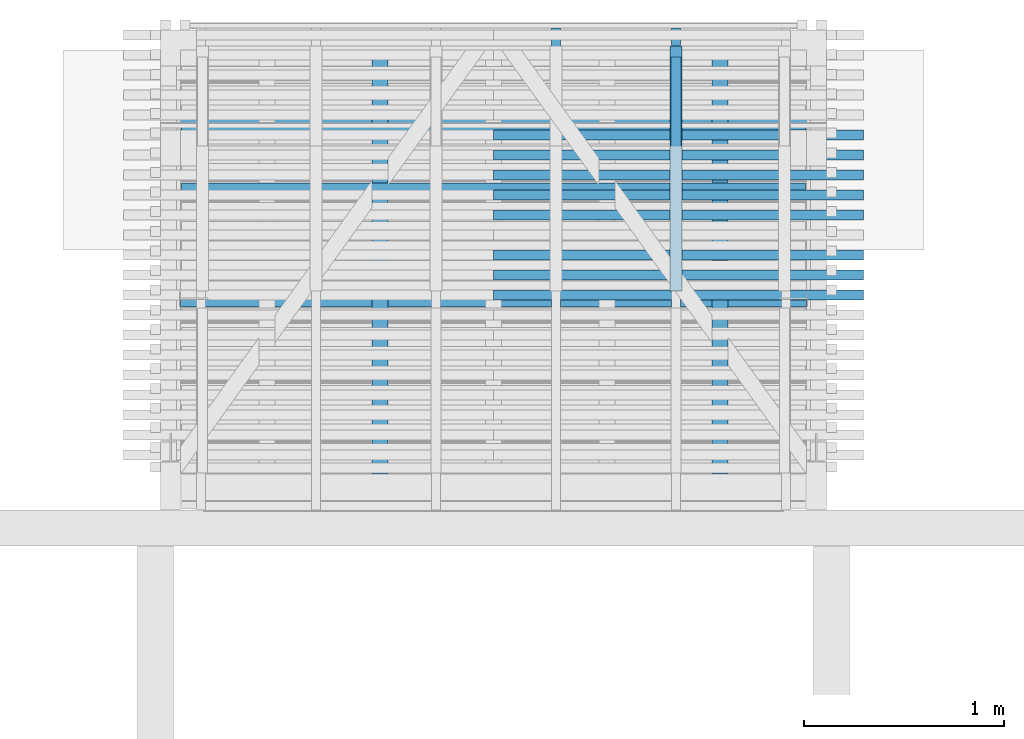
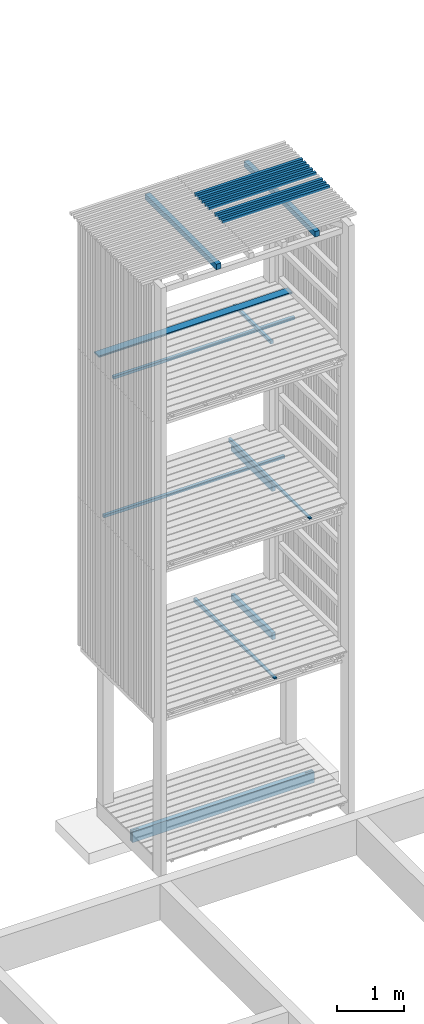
# One storey, part 151 of 182: 19 beams.
"""IFC2X3 building model written with IfcOpenShell, lengths in metres."""

from ifc_helpers import new_model, si_unit, frame, origin, place, context, project, spatial, faceted_brep, element, save


model = new_model("IFC2X3")

# Units and contexts
model_context = context("Model", 3, precision=1e-06, world=origin())
ifc_project = project(units=[si_unit("LENGTHUNIT", "METRE"), si_unit("PLANEANGLEUNIT", "RADIAN")], contexts=[model_context])

# Site, building, storey
site = spatial("IfcSite", under=ifc_project, CompositionType="ELEMENT")
building = spatial("IfcBuilding", under=site, CompositionType="ELEMENT")
storey = spatial("IfcBuildingStorey", under=building, Name="vs", CompositionType="ELEMENT", Elevation=-0.85)

# Beams
placement = place(None, origin())
beam_1_placement = place(placement, frame((36.569999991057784, 11.545077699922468, 10.47999999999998), z_axis=(0.0, 0.0, 1.0), x_axis=(-1.0, 0.0, 0.0)))
element("IfcBeam", 1, at=beam_1_placement, inside=storey, Name="Bardage", context=model_context, shape_type="Brep", body=[
    faceted_brep([(-3e-15, 0.025000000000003, 0.025000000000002), (-3e-15, -0.024999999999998, 0.025000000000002), (1.849999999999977, -0.024999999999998, 0.025000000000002), (1.849999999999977, 0.025000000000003, 0.025000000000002), (1.849999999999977, -0.024999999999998, 0.025000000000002), (-3e-15, -0.024999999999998, 0.025000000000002), (-3e-15, -0.024999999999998, -0.024999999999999), (1.849999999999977, -0.024999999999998, -0.024999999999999), (-3e-15, -0.024999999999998, 0.025000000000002), (-3e-15, 0.025000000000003, 0.025000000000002), (-3e-15, 0.025000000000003, -0.024999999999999), (-3e-15, -0.024999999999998, -0.024999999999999), (-3e-15, 0.025000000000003, -0.024999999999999), (-3e-15, 0.025000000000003, 0.025000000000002), (1.849999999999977, 0.025000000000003, 0.025000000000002), (1.849999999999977, 0.025000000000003, -0.024999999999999), (1.849999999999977, -0.024999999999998, -0.024999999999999), (-3e-15, -0.024999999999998, -0.024999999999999), (-3e-15, 0.025000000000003, -0.024999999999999), (1.849999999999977, 0.025000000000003, -0.024999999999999), (1.849999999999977, -0.024999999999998, 0.025000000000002), (1.849999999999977, -0.024999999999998, -0.024999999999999), (1.849999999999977, 0.025000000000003, -0.024999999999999), (1.849999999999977, 0.025000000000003, 0.025000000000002)], [[[0, 1, 2, 3]], [[4, 5, 6, 7]], [[8, 9, 10, 11]], [[12, 13, 14, 15]], [[16, 17, 18, 19]], [[20, 21, 22, 23]]]),
])
beam_2_placement = place(placement, frame((36.569999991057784, 12.245077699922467, 10.47999999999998), z_axis=(0.0, 0.0, 1.0), x_axis=(-1.0, 0.0, 0.0)))
element("IfcBeam", 2, at=beam_2_placement, inside=storey, Name="Bardage", context=model_context, shape_type="Brep", body=[
    faceted_brep([(-3e-15, 0.024999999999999, 0.025000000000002), (-3e-15, -0.024999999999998, 0.025000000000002), (1.849999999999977, -0.024999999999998, 0.025000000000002), (1.849999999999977, 0.024999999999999, 0.025000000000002), (1.849999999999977, -0.024999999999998, 0.025000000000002), (-3e-15, -0.024999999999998, 0.025000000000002), (-3e-15, -0.024999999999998, -0.024999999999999), (1.849999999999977, -0.024999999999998, -0.024999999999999), (-3e-15, -0.024999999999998, 0.025000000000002), (-3e-15, 0.024999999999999, 0.025000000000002), (-3e-15, 0.024999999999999, -0.024999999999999), (-3e-15, -0.024999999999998, -0.024999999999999), (-3e-15, 0.024999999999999, -0.024999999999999), (-3e-15, 0.024999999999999, 0.025000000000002), (1.849999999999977, 0.024999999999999, 0.025000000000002), (1.849999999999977, 0.024999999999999, -0.024999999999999), (1.849999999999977, -0.024999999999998, -0.024999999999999), (-3e-15, -0.024999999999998, -0.024999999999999), (-3e-15, 0.024999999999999, -0.024999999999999), (1.849999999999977, 0.024999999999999, -0.024999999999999), (1.849999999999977, -0.024999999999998, 0.025000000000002), (1.849999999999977, -0.024999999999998, -0.024999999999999), (1.849999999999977, 0.024999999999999, -0.024999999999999), (1.849999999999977, 0.024999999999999, 0.025000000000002)], [[[0, 1, 2, 3]], [[4, 5, 6, 7]], [[8, 9, 10, 11]], [[12, 13, 14, 15]], [[16, 17, 18, 19]], [[20, 21, 22, 23]]]),
])
beam_3_placement = place(placement, frame((36.569999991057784, 12.145077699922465, 10.47999999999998), z_axis=(0.0, 0.0, 1.0), x_axis=(-1.0, 0.0, 0.0)))
element("IfcBeam", 3, at=beam_3_placement, inside=storey, Name="Bardage", context=model_context, shape_type="Brep", body=[
    faceted_brep([(-3e-15, 0.024999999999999, 0.025000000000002), (-3e-15, -0.025000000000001, 0.025000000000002), (1.849999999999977, -0.025000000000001, 0.025000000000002), (1.849999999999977, 0.024999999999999, 0.025000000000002), (1.849999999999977, -0.025000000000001, 0.025000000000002), (-3e-15, -0.025000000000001, 0.025000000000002), (-3e-15, -0.025000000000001, -0.024999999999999), (1.849999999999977, -0.025000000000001, -0.024999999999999), (-3e-15, -0.025000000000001, 0.025000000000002), (-3e-15, 0.024999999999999, 0.025000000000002), (-3e-15, 0.024999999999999, -0.024999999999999), (-3e-15, -0.025000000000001, -0.024999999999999), (-3e-15, 0.024999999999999, -0.024999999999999), (-3e-15, 0.024999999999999, 0.025000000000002), (1.849999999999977, 0.024999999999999, 0.025000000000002), (1.849999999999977, 0.024999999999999, -0.024999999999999), (1.849999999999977, -0.025000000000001, -0.024999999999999), (-3e-15, -0.025000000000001, -0.024999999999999), (-3e-15, 0.024999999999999, -0.024999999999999), (1.849999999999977, 0.024999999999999, -0.024999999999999), (1.849999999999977, -0.025000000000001, 0.025000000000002), (1.849999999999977, -0.025000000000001, -0.024999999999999), (1.849999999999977, 0.024999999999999, -0.024999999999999), (1.849999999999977, 0.024999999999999, 0.025000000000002)], [[[0, 1, 2, 3]], [[4, 5, 6, 7]], [[8, 9, 10, 11]], [[12, 13, 14, 15]], [[16, 17, 18, 19]], [[20, 21, 22, 23]]]),
])
beam_4_placement = place(placement, frame((35.6329999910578, 12.735077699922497, 7.91739999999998), z_axis=(0.0, 0.0, 1.0), x_axis=(0.0, -1.0, 0.0)))
element("IfcBeam", 4, at=beam_4_placement, inside=storey, Name="Calage", context=model_context, shape_type="Brep", body=[
    faceted_brep([(0.0, -0.025000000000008, -0.025), (0.0, -0.025000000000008, 0.024999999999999), (0.0, 0.024999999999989, 0.024999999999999), (0.0, 0.024999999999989, -0.025), (1.115000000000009, 0.024999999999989, 0.024999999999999), (1.115000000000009, -0.025000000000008, 0.024999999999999), (1.115000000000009, -0.025000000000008, -0.025), (1.115000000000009, 0.024999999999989, -0.025), (0.0, 0.024999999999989, 0.024999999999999), (0.0, -0.025000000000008, 0.024999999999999), (1.115000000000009, -0.025000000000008, 0.024999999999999), (1.115000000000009, 0.024999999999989, 0.024999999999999), (1.115000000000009, -0.025000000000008, 0.024999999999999), (0.0, -0.025000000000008, 0.024999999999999), (0.0, -0.025000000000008, -0.025), (1.115000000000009, -0.025000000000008, -0.025), (1.115000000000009, -0.025000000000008, -0.025), (0.0, -0.025000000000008, -0.025), (0.0, 0.024999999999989, -0.025), (1.115000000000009, 0.024999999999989, -0.025), (1.115000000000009, 0.024999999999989, -0.025), (0.0, 0.024999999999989, -0.025), (0.0, 0.024999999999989, 0.024999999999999), (1.115000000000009, 0.024999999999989, 0.024999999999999)], [[[0, 1, 2, 3]], [[4, 5, 6, 7]], [[8, 9, 10, 11]], [[12, 13, 14, 15]], [[16, 17, 18, 19]], [[20, 21, 22, 23]]]),
])
beam_5_placement = place(placement, frame((35.63299999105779, 11.565077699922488, 2.604249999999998), z_axis=(0.0, 0.0, 1.0), x_axis=(0.0, 1.0, 0.0)))
element("IfcBeam", 5, at=beam_5_placement, inside=storey, Name="Solive", context=model_context, shape_type="Brep", body=[
    faceted_brep([(0.0, -0.029999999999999, -0.06185), (1.225000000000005, -0.029999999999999, -0.06185), (1.225000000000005, -0.029999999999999, 0.037349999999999), (0.0, -0.029999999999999, 0.06185), (0.0, 0.030000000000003, -0.06185), (1.225000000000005, 0.029999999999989, -0.06185), (1.225000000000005, -0.029999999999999, -0.06185), (0.0, -0.029999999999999, -0.06185), (0.0, 0.030000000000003, 0.06185), (0.0, 0.030000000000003, -0.06185), (0.0, -0.029999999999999, -0.06185), (0.0, -0.029999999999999, 0.06185), (1.225000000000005, 0.029999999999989, -0.06185), (0.0, 0.030000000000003, -0.06185), (0.0, 0.030000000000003, 0.06185), (1.225000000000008, 0.029999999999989, 0.03735), (1.225000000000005, -0.029999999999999, 0.037349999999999), (1.225000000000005, -0.029999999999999, -0.06185), (1.225000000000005, 0.029999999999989, -0.06185), (1.225000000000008, 0.029999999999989, 0.03735), (0.0, -0.029999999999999, 0.06185), (1.225000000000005, -0.029999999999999, 0.037349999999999), (1.225000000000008, 0.029999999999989, 0.03735), (0.0, 0.030000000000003, 0.06185)], [[[0, 1, 2, 3]], [[4, 5, 6, 7]], [[8, 9, 10, 11]], [[12, 13, 14, 15]], [[16, 17, 18, 19]], [[20, 21, 22, 23]]]),
])
beam_6_placement = place(placement, frame((36.569999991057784, 12.045077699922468, 10.47999999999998), z_axis=(0.0, 0.0, 1.0), x_axis=(-1.0, 0.0, 0.0)))
element("IfcBeam", 6, at=beam_6_placement, inside=storey, Name="Bardage", context=model_context, shape_type="Brep", body=[
    faceted_brep([(-3e-15, 0.025000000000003, 0.025000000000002), (-3e-15, -0.024999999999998, 0.025000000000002), (1.849999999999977, -0.025000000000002, 0.025000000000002), (1.849999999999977, 0.025000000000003, 0.025000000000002), (1.849999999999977, -0.025000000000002, 0.025000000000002), (-3e-15, -0.024999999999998, 0.025000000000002), (-3e-15, -0.024999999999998, -0.024999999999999), (1.849999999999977, -0.025000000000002, -0.024999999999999), (-3e-15, -0.024999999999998, 0.025000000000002), (-3e-15, 0.025000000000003, 0.025000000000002), (-3e-15, 0.025000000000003, -0.024999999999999), (-3e-15, -0.024999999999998, -0.024999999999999), (-3e-15, 0.025000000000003, -0.024999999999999), (-3e-15, 0.025000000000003, 0.025000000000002), (1.849999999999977, 0.025000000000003, 0.025000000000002), (1.849999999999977, 0.025000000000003, -0.024999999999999), (1.849999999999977, -0.025000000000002, -0.024999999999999), (-3e-15, -0.024999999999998, -0.024999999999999), (-3e-15, 0.025000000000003, -0.024999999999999), (1.849999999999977, 0.025000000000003, -0.024999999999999), (1.849999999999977, -0.025000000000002, 0.025000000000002), (1.849999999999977, -0.025000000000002, -0.024999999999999), (1.849999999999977, 0.025000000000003, -0.024999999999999), (1.849999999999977, 0.025000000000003, 0.025000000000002)], [[[0, 1, 2, 3]], [[4, 5, 6, 7]], [[8, 9, 10, 11]], [[12, 13, 14, 15]], [[16, 17, 18, 19]], [[20, 21, 22, 23]]]),
])
beam_7_placement = place(placement, frame((35.63299999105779, 10.470077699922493, 5.384400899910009), z_axis=(0.0, 0.0, 1.0), x_axis=(0.0, 1.0, 0.0)))
element("IfcBeam", 7, at=beam_7_placement, inside=storey, Name="Calage", context=model_context, shape_type="Brep", body=[
    faceted_brep([(2.410000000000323, -0.022500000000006, -0.035599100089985), (0.0, -0.022500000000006, 0.012600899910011), (0.0, 0.022499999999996, 0.012600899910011), (2.410000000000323, 0.022499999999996, -0.035599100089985), (0.0, 0.022499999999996, 0.035599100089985), (0.0, 0.022499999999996, 0.012600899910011), (0.0, -0.022500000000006, 0.012600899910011), (0.0, -0.022500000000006, 0.035599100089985), (2.410000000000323, 0.022499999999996, -0.035599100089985), (0.0, 0.022499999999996, 0.012600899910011), (0.0, 0.022499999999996, 0.035599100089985), (2.410000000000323, 0.022499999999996, 0.035599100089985), (2.410000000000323, -0.022500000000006, 0.035599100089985), (0.0, -0.022500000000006, 0.035599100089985), (0.0, -0.022500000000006, 0.012600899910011), (2.410000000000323, -0.022500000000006, -0.035599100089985), (2.410000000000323, 0.022499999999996, 0.035599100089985), (0.0, 0.022499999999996, 0.035599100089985), (0.0, -0.022500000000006, 0.035599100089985), (2.410000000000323, -0.022500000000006, 0.035599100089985), (2.410000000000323, 0.022499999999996, -0.035599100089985), (2.410000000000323, 0.022499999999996, 0.035599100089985), (2.410000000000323, -0.022500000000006, 0.035599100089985), (2.410000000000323, -0.022500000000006, -0.035599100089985)], [[[0, 1, 2, 3]], [[4, 5, 6, 7]], [[8, 9, 10, 11]], [[12, 13, 14, 15]], [[16, 17, 18, 19]], [[20, 21, 22, 23]]]),
])
beam_8_placement = place(placement, frame((36.569999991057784, 11.745077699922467, 10.47999999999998), z_axis=(0.0, 0.0, 1.0), x_axis=(-1.0, 0.0, 0.0)))
element("IfcBeam", 8, at=beam_8_placement, inside=storey, Name="Bardage", context=model_context, shape_type="Brep", body=[
    faceted_brep([(-3e-15, 0.024999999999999, 0.025000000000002), (-3e-15, -0.024999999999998, 0.025000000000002), (1.849999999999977, -0.024999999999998, 0.025000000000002), (1.849999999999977, 0.024999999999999, 0.025000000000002), (1.849999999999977, -0.024999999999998, 0.025000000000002), (-3e-15, -0.024999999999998, 0.025000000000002), (-3e-15, -0.024999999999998, -0.024999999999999), (1.849999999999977, -0.024999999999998, -0.024999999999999), (-3e-15, -0.024999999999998, 0.025000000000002), (-3e-15, 0.024999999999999, 0.025000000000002), (-3e-15, 0.024999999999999, -0.024999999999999), (-3e-15, -0.024999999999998, -0.024999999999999), (-3e-15, 0.024999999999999, -0.024999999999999), (-3e-15, 0.024999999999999, 0.025000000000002), (1.849999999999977, 0.024999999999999, 0.025000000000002), (1.849999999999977, 0.024999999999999, -0.024999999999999), (1.849999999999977, -0.024999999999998, -0.024999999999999), (-3e-15, -0.024999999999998, -0.024999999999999), (-3e-15, 0.024999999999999, -0.024999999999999), (1.849999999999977, 0.024999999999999, -0.024999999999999), (1.849999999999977, -0.024999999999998, 0.025000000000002), (1.849999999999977, -0.024999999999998, -0.024999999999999), (1.849999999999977, 0.024999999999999, -0.024999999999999), (1.849999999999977, 0.024999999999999, 0.025000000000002)], [[[0, 1, 2, 3]], [[4, 5, 6, 7]], [[8, 9, 10, 11]], [[12, 13, 14, 15]], [[16, 17, 18, 19]], [[20, 21, 22, 23]]]),
])
beam_9_placement = place(placement, frame((35.63299999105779, 11.565077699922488, 5.304249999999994), z_axis=(0.0, 0.0, 1.0), x_axis=(0.0, 1.0, 0.0)))
element("IfcBeam", 9, at=beam_9_placement, inside=storey, Name="Solive", context=model_context, shape_type="Brep", body=[
    faceted_brep([(0.0, -0.029999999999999, -0.061849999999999), (1.225000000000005, -0.029999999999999, -0.061849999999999), (1.225000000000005, -0.029999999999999, 0.03735), (0.0, -0.029999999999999, 0.06185), (0.0, 0.030000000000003, -0.061849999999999), (1.225000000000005, 0.029999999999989, -0.061849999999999), (1.225000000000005, -0.029999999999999, -0.061849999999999), (0.0, -0.029999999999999, -0.061849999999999), (0.0, 0.030000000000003, 0.061850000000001), (0.0, 0.030000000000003, -0.061849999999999), (0.0, -0.029999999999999, -0.061849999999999), (0.0, -0.029999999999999, 0.06185), (1.225000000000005, 0.029999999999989, -0.061849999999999), (0.0, 0.030000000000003, -0.061849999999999), (0.0, 0.030000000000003, 0.061850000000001), (1.225000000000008, 0.029999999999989, 0.03735), (1.225000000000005, -0.029999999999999, 0.03735), (1.225000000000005, -0.029999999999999, -0.061849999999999), (1.225000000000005, 0.029999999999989, -0.061849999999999), (1.225000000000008, 0.029999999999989, 0.03735), (0.0, -0.029999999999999, 0.06185), (1.225000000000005, -0.029999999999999, 0.03735), (1.225000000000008, 0.029999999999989, 0.03735), (0.0, 0.030000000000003, 0.061850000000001)], [[[0, 1, 2, 3]], [[4, 5, 6, 7]], [[8, 9, 10, 11]], [[12, 13, 14, 15]], [[16, 17, 18, 19]], [[20, 21, 22, 23]]]),
])
beam_10_placement = place(placement, frame((36.569999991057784, 11.945077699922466, 10.47999999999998), z_axis=(0.0, 0.0, 1.0), x_axis=(-1.0, 0.0, 0.0)))
element("IfcBeam", 10, at=beam_10_placement, inside=storey, Name="Bardage", context=model_context, shape_type="Brep", body=[
    faceted_brep([(-3e-15, 0.024999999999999, 0.025000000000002), (-3e-15, -0.025000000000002, 0.025000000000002), (1.849999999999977, -0.025000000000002, 0.025000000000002), (1.849999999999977, 0.024999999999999, 0.025000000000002), (1.849999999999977, -0.025000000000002, 0.025000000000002), (-3e-15, -0.025000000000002, 0.025000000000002), (-3e-15, -0.025000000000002, -0.024999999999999), (1.849999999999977, -0.025000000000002, -0.024999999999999), (-3e-15, -0.025000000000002, 0.025000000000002), (-3e-15, 0.024999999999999, 0.025000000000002), (-3e-15, 0.024999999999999, -0.024999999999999), (-3e-15, -0.025000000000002, -0.024999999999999), (-3e-15, 0.024999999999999, -0.024999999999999), (-3e-15, 0.024999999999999, 0.025000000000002), (1.849999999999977, 0.024999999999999, 0.025000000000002), (1.849999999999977, 0.024999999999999, -0.024999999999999), (1.849999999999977, -0.025000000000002, -0.024999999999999), (-3e-15, -0.025000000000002, -0.024999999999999), (-3e-15, 0.024999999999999, -0.024999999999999), (1.849999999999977, 0.024999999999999, -0.024999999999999), (1.849999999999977, -0.025000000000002, 0.025000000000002), (1.849999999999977, -0.025000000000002, -0.024999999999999), (1.849999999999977, 0.024999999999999, -0.024999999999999), (1.849999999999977, 0.024999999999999, 0.025000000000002)], [[[0, 1, 2, 3]], [[4, 5, 6, 7]], [[8, 9, 10, 11]], [[12, 13, 14, 15]], [[16, 17, 18, 19]], [[20, 21, 22, 23]]]),
])
beam_11_placement = place(placement, frame((36.569999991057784, 11.645077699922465, 10.47999999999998), z_axis=(0.0, 0.0, 1.0), x_axis=(-1.0, 0.0, 0.0)))
element("IfcBeam", 11, at=beam_11_placement, inside=storey, Name="Bardage", context=model_context, shape_type="Brep", body=[
    faceted_brep([(-3e-15, 0.024999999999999, 0.025000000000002), (-3e-15, -0.025000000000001, 0.025000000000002), (1.849999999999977, -0.025000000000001, 0.025000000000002), (1.849999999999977, 0.024999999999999, 0.025000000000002), (1.849999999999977, -0.025000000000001, 0.025000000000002), (-3e-15, -0.025000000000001, 0.025000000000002), (-3e-15, -0.025000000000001, -0.024999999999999), (1.849999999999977, -0.025000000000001, -0.024999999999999), (-3e-15, -0.025000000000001, 0.025000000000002), (-3e-15, 0.024999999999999, 0.025000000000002), (-3e-15, 0.024999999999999, -0.024999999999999), (-3e-15, -0.025000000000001, -0.024999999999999), (-3e-15, 0.024999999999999, -0.024999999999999), (-3e-15, 0.024999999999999, 0.025000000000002), (1.849999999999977, 0.024999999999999, 0.025000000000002), (1.849999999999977, 0.024999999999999, -0.024999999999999), (1.849999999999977, -0.025000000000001, -0.024999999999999), (-3e-15, -0.025000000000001, -0.024999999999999), (-3e-15, 0.024999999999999, -0.024999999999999), (1.849999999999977, 0.024999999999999, -0.024999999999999), (1.849999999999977, -0.025000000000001, 0.025000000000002), (1.849999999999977, -0.025000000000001, -0.024999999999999), (1.849999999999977, 0.024999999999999, -0.024999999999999), (1.849999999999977, 0.024999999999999, 0.025000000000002)], [[[0, 1, 2, 3]], [[4, 5, 6, 7]], [[8, 9, 10, 11]], [[12, 13, 14, 15]], [[16, 17, 18, 19]], [[20, 21, 22, 23]]]),
])
beam_12_placement = place(placement, frame((35.85333332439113, 10.650077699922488, 10.404999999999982), z_axis=(0.0, 0.0, 1.0), x_axis=(0.0, 1.0, 0.0)))
element("IfcBeam", 12, at=beam_12_placement, inside=storey, Name="Support bardage", context=model_context, shape_type="Brep", body=[
    faceted_brep([(2.120000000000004, -0.040000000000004, 0.050000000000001), (2.120000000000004, 0.039999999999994, 0.050000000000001), (3e-15, 0.039999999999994, 0.050000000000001), (3e-15, -0.040000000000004, 0.050000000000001), (3e-15, 0.039999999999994, 0.050000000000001), (2.120000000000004, 0.039999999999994, 0.050000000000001), (2.120000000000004, 0.039999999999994, -0.050000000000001), (3e-15, 0.039999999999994, -0.050000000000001), (2.120000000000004, 0.039999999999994, 0.050000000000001), (2.120000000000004, -0.040000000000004, 0.050000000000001), (2.120000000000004, -0.040000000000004, -0.050000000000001), (2.120000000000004, 0.039999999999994, -0.050000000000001), (2.120000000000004, -0.040000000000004, -0.050000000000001), (2.120000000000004, -0.040000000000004, 0.050000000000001), (3e-15, -0.040000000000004, 0.050000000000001), (3e-15, -0.040000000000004, -0.050000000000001), (3e-15, 0.039999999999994, -0.050000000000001), (2.120000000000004, 0.039999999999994, -0.050000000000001), (2.120000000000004, -0.040000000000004, -0.050000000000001), (3e-15, -0.040000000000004, -0.050000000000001), (3e-15, 0.039999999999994, 0.050000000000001), (3e-15, 0.039999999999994, -0.050000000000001), (3e-15, -0.040000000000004, -0.050000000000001), (3e-15, -0.040000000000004, 0.050000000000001)], [[[0, 1, 2, 3]], [[4, 5, 6, 7]], [[8, 9, 10, 11]], [[12, 13, 14, 15]], [[16, 17, 18, 19]], [[20, 21, 22, 23]]]),
])
beam_13_placement = place(placement, frame((36.569999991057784, 12.345077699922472, 10.47999999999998), z_axis=(0.0, 0.0, 1.0), x_axis=(-1.0, 0.0, 0.0)))
element("IfcBeam", 13, at=beam_13_placement, inside=storey, Name="Bardage", context=model_context, shape_type="Brep", body=[
    faceted_brep([(-3e-15, 0.025000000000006, 0.025000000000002), (-3e-15, -0.024999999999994, 0.025000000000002), (1.849999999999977, -0.024999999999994, 0.025000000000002), (1.849999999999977, 0.025000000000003, 0.025000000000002), (1.849999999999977, -0.024999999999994, 0.025000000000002), (-3e-15, -0.024999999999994, 0.025000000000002), (-3e-15, -0.024999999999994, -0.024999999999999), (1.849999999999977, -0.024999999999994, -0.024999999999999), (-3e-15, -0.024999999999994, 0.025000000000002), (-3e-15, 0.025000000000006, 0.025000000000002), (-3e-15, 0.025000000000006, -0.024999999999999), (-3e-15, -0.024999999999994, -0.024999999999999), (-3e-15, 0.025000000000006, -0.024999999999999), (-3e-15, 0.025000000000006, 0.025000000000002), (1.849999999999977, 0.025000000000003, 0.025000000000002), (1.849999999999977, 0.025000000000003, -0.024999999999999), (1.849999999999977, -0.024999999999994, -0.024999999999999), (-3e-15, -0.024999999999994, -0.024999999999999), (-3e-15, 0.025000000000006, -0.024999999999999), (1.849999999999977, 0.025000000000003, -0.024999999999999), (1.849999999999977, -0.024999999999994, 0.025000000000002), (1.849999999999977, -0.024999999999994, -0.024999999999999), (1.849999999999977, 0.025000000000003, -0.024999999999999), (1.849999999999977, 0.025000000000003, 0.025000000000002)], [[[0, 1, 2, 3]], [[4, 5, 6, 7]], [[8, 9, 10, 11]], [[12, 13, 14, 15]], [[16, 17, 18, 19]], [[20, 21, 22, 23]]]),
])
beam_14_placement = place(placement, frame((36.28499999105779, 11.525077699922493, -0.143899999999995), z_axis=(0.0, 0.0, 1.0), x_axis=(-1.0, -2e-15, 0.0)))
element("IfcBeam", 14, at=beam_14_placement, inside=storey, Name="Sommier", context=model_context, shape_type="Brep", body=[
    faceted_brep([(0.137000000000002, -0.003999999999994, 0.1), (0.137000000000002, -0.003999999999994, -0.1), (1e-15, -0.003999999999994, -0.1), (1e-15, -0.003999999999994, 0.1), (0.137000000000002, 0.004000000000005, -0.1), (0.137000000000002, -0.003999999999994, -0.1), (0.137000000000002, -0.003999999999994, 0.1), (0.137000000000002, 0.004000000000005, 0.1), (0.137000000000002, 0.004000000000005, -0.1), (0.137000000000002, 0.004000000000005, 0.1), (1e-15, 0.004000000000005, 0.1), (1e-15, 0.004000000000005, -0.1), (1e-15, -0.003999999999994, 0.1), (1e-15, -0.003999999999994, -0.1), (1e-15, -0.039999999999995, -0.1), (1e-15, -0.039999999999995, 0.1), (1e-15, 0.040000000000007, 0.1), (1e-15, 0.040000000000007, -0.1), (1e-15, 0.004000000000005, -0.1), (1e-15, 0.004000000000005, 0.1), (3.129999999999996, 0.004000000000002, 0.1), (2.992999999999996, 0.004000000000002, 0.1), (2.992999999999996, 0.004000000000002, -0.1), (3.129999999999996, 0.004000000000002, -0.1), (2.992999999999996, -0.004000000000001, 0.1), (2.992999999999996, -0.004000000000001, -0.1), (2.992999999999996, 0.004000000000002, -0.1), (2.992999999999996, 0.004000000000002, 0.1), (3.129999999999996, -0.004000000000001, -0.1), (2.992999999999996, -0.004000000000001, -0.1), (2.992999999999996, -0.004000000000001, 0.1), (3.129999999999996, -0.004000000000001, 0.1), (3.129999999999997, 0.04, 0.1), (3.129999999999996, 0.004000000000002, 0.1), (3.129999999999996, 0.004000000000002, -0.1), (3.129999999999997, 0.04, -0.1), (3.129999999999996, -0.040000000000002, 0.1), (3.129999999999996, -0.040000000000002, -0.1), (3.129999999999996, -0.004000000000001, -0.1), (3.129999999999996, -0.004000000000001, 0.1), (1e-15, -0.039999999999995, -0.1), (1e-15, -0.003999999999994, -0.1), (0.137000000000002, -0.003999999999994, -0.1), (0.137000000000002, 0.004000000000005, -0.1), (1e-15, 0.004000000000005, -0.1), (1e-15, 0.040000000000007, -0.1), (3.129999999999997, 0.04, -0.1), (3.129999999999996, 0.004000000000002, -0.1), (2.992999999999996, 0.004000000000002, -0.1), (2.992999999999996, -0.004000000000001, -0.1), (3.129999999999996, -0.004000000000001, -0.1), (3.129999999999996, -0.040000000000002, -0.1), (2.992999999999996, 0.004000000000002, 0.1), (3.129999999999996, 0.004000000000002, 0.1), (3.129999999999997, 0.04, 0.1), (1e-15, 0.040000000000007, 0.1), (1e-15, 0.004000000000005, 0.1), (0.137000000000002, 0.004000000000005, 0.1), (0.137000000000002, -0.003999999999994, 0.1), (1e-15, -0.003999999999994, 0.1), (1e-15, -0.039999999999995, 0.1), (3.129999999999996, -0.040000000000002, 0.1), (3.129999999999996, -0.004000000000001, 0.1), (2.992999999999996, -0.004000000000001, 0.1), (1e-15, 0.040000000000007, 0.1), (3.129999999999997, 0.04, 0.1), (3.129999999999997, 0.04, -0.1), (1e-15, 0.040000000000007, -0.1), (1e-15, -0.039999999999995, -0.1), (3.129999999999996, -0.040000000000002, -0.1), (3.129999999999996, -0.040000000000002, 0.1), (1e-15, -0.039999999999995, 0.1)], [[[0, 1, 2, 3]], [[4, 5, 6, 7]], [[8, 9, 10, 11]], [[12, 13, 14, 15]], [[16, 17, 18, 19]], [[20, 21, 22, 23]], [[24, 25, 26, 27]], [[28, 29, 30, 31]], [[32, 33, 34, 35]], [[36, 37, 38, 39]], [[40, 41, 42, 43, 44, 45, 46, 47, 48, 49, 50, 51]], [[52, 53, 54, 55, 56, 57, 58, 59, 60, 61, 62, 63]], [[64, 65, 66, 67]], [[68, 69, 70, 71]]]),
])
beam_15_placement = place(placement, frame((35.03299999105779, 10.470077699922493, 2.684400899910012), z_axis=(0.0, 0.0, 1.0), x_axis=(0.0, 1.0, 0.0)))
element("IfcBeam", 15, at=beam_15_placement, inside=storey, Name="Calage", context=model_context, shape_type="Brep", body=[
    faceted_brep([(2.410000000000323, -0.022499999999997, -0.035599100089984), (0.0, -0.022499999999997, 0.012600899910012), (0.0, 0.022500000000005, 0.012600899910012), (2.410000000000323, 0.02249999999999, -0.035599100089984), (0.0, 0.022500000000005, 0.035599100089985), (0.0, 0.022500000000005, 0.012600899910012), (0.0, -0.022499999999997, 0.012600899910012), (0.0, -0.022499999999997, 0.035599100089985), (2.410000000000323, 0.02249999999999, -0.035599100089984), (0.0, 0.022500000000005, 0.012600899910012), (0.0, 0.022500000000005, 0.035599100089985), (2.410000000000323, 0.022500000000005, 0.035599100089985), (2.410000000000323, -0.022499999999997, 0.035599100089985), (0.0, -0.022499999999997, 0.035599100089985), (0.0, -0.022499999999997, 0.012600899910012), (2.410000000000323, -0.022499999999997, -0.035599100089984), (2.410000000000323, 0.022500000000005, 0.035599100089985), (0.0, 0.022500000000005, 0.035599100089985), (0.0, -0.022499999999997, 0.035599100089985), (2.410000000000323, -0.022499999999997, 0.035599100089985), (2.410000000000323, 0.02249999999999, -0.035599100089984), (2.410000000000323, 0.022500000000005, 0.035599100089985), (2.410000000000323, -0.022499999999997, 0.035599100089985), (2.410000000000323, -0.022499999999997, -0.035599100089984)], [[[0, 1, 2, 3]], [[4, 5, 6, 7]], [[8, 9, 10, 11]], [[12, 13, 14, 15]], [[16, 17, 18, 19]], [[20, 21, 22, 23]]]),
])
beam_16_placement = place(placement, frame((36.384999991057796, 12.384577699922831, 8.13349999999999), z_axis=(0.0, 0.0, 1.0), x_axis=(-1.0, -1e-14, 0.0)))
element("IfcBeam", 16, at=beam_16_placement, inside=storey, Name="Caillebotis", context=model_context, shape_type="Brep", body=[
    faceted_brep([(3.329999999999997, -0.072500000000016, -0.013500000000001), (3.329999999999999, 0.072499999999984, -0.013500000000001), (3.329999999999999, 0.072499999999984, 0.008499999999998), (3.329999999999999, 0.067499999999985, 0.013499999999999), (3.329999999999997, -0.067500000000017, 0.013499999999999), (3.329999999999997, -0.072500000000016, 0.0085), (-1e-15, -0.072499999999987, 0.0085), (-1e-15, -0.067499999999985, 0.013499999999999), (1e-15, 0.067500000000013, 0.013499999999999), (1e-15, 0.072500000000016, 0.008499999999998), (1e-15, 0.072500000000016, -0.013500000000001), (-1e-15, -0.072499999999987, -0.013500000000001), (3.329999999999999, 0.072499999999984, 0.008499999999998), (3.329999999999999, 0.072499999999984, -0.013500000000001), (1e-15, 0.072500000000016, -0.013500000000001), (1e-15, 0.072500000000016, 0.008499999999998), (3.329999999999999, 0.067499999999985, 0.013499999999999), (3.329999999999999, 0.072499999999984, 0.008499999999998), (1e-15, 0.072500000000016, 0.008499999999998), (1e-15, 0.067500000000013, 0.013499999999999), (3.329999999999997, -0.067500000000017, 0.013499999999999), (3.329999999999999, 0.067499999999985, 0.013499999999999), (1e-15, 0.067500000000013, 0.013499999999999), (-1e-15, -0.067499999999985, 0.013499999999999), (3.329999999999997, -0.072500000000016, 0.0085), (3.329999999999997, -0.067500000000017, 0.013499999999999), (-1e-15, -0.067499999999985, 0.013499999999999), (-1e-15, -0.072499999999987, 0.0085), (3.329999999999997, -0.072500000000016, -0.013500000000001), (3.329999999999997, -0.072500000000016, 0.0085), (-1e-15, -0.072499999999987, 0.0085), (-1e-15, -0.072499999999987, -0.013500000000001), (1e-15, 0.072500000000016, -0.013500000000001), (3.329999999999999, 0.072499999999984, -0.013500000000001), (3.329999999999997, -0.072500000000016, -0.013500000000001), (-1e-15, -0.072499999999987, -0.013500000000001)], [[[0, 1, 2, 3, 4, 5]], [[6, 7, 8, 9, 10, 11]], [[12, 13, 14, 15]], [[16, 17, 18, 19]], [[20, 21, 22, 23]], [[24, 25, 26, 27]], [[28, 29, 30, 31]], [[32, 33, 34, 35]]]),
])
beam_17_placement = place(placement, frame((36.27999999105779, 12.080494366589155, 7.86739999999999), z_axis=(0.0, 0.0, 1.0), x_axis=(-1.0, 0.0, 0.0)))
element("IfcBeam", 17, at=beam_17_placement, inside=storey, Name="Bardage", context=model_context, shape_type="Brep", body=[
    faceted_brep([(3.120000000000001, 0.024999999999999, -0.024999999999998), (3.120000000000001, 0.024999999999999, 0.025000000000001), (3.120000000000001, -0.024999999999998, 0.025000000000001), (3.120000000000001, -0.024999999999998, -0.024999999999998), (-3e-15, -0.025000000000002, -0.024999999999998), (-3e-15, -0.025000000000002, 0.025000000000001), (-3e-15, 0.024999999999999, 0.025000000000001), (-3e-15, 0.024999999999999, -0.024999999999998), (-3e-15, 0.024999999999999, -0.024999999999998), (-3e-15, 0.024999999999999, 0.025000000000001), (3.120000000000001, 0.024999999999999, 0.025000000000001), (3.120000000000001, 0.024999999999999, -0.024999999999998), (-3e-15, 0.024999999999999, 0.025000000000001), (-3e-15, -0.025000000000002, 0.025000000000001), (3.120000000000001, -0.024999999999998, 0.025000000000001), (3.120000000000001, 0.024999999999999, 0.025000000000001), (-3e-15, -0.025000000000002, 0.025000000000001), (-3e-15, -0.025000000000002, -0.024999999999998), (3.120000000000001, -0.024999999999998, -0.024999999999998), (3.120000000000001, -0.024999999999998, 0.025000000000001), (-3e-15, -0.025000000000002, -0.024999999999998), (-3e-15, 0.024999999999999, -0.024999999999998), (3.120000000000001, 0.024999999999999, -0.024999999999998), (3.120000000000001, -0.024999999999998, -0.024999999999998)], [[[0, 1, 2, 3]], [[4, 5, 6, 7]], [[8, 9, 10, 11]], [[12, 13, 14, 15]], [[16, 17, 18, 19]], [[20, 21, 22, 23]]]),
])
beam_18_placement = place(placement, frame((36.27999999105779, 12.371744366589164, 5.167399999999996), z_axis=(0.0, 0.0, 1.0), x_axis=(-1.0, 0.0, 0.0)))
element("IfcBeam", 18, at=beam_18_placement, inside=storey, Name="Bardage", context=model_context, shape_type="Brep", body=[
    faceted_brep([(3.120000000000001, 0.025000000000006, 0.024999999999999), (3.120000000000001, -0.024999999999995, 0.024999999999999), (3.120000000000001, -0.024999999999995, -0.025), (3.120000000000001, 0.025000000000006, -0.025), (-3e-15, -0.024999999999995, 0.024999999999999), (-3e-15, 0.025000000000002, 0.024999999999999), (-3e-15, 0.025000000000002, -0.025), (-3e-15, -0.024999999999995, -0.025), (-3e-15, -0.024999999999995, -0.025), (-3e-15, 0.025000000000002, -0.025), (3.120000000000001, 0.025000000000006, -0.025), (3.120000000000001, -0.024999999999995, -0.025), (3.120000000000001, -0.024999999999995, -0.025), (3.120000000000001, -0.024999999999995, 0.024999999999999), (-3e-15, -0.024999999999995, 0.024999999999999), (-3e-15, -0.024999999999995, -0.025), (3.120000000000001, 0.025000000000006, 0.024999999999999), (3.120000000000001, 0.025000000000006, -0.025), (-3e-15, 0.025000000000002, -0.025), (-3e-15, 0.025000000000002, 0.024999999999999), (3.120000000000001, -0.024999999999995, 0.024999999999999), (3.120000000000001, 0.025000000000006, 0.024999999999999), (-3e-15, 0.025000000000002, 0.024999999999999), (-3e-15, -0.024999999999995, 0.024999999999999)], [[[0, 1, 2, 3]], [[4, 5, 6, 7]], [[8, 9, 10, 11]], [[12, 13, 14, 15]], [[16, 17, 18, 19]], [[20, 21, 22, 23]]]),
])
beam_19_placement = place(placement, frame((34.15333332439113, 10.650077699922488, 10.404999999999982), z_axis=(0.0, 0.0, 1.0), x_axis=(0.0, 1.0, 0.0)))
element("IfcBeam", 19, at=beam_19_placement, inside=storey, Name="Support bardage", context=model_context, shape_type="Brep", body=[
    faceted_brep([(2.120000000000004, -0.040000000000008, 0.050000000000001), (2.120000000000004, 0.03999999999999, 0.050000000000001), (3e-15, 0.03999999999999, 0.050000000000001), (3e-15, -0.040000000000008, 0.050000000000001), (3e-15, 0.03999999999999, 0.050000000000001), (2.120000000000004, 0.03999999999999, 0.050000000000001), (2.120000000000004, 0.03999999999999, -0.050000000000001), (3e-15, 0.03999999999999, -0.050000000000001), (2.120000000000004, 0.03999999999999, 0.050000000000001), (2.120000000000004, -0.040000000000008, 0.050000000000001), (2.120000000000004, -0.040000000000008, -0.050000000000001), (2.120000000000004, 0.03999999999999, -0.050000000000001), (2.120000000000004, -0.040000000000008, -0.050000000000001), (2.120000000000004, -0.040000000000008, 0.050000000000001), (3e-15, -0.040000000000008, 0.050000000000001), (3e-15, -0.040000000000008, -0.050000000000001), (3e-15, 0.03999999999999, -0.050000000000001), (2.120000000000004, 0.03999999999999, -0.050000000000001), (2.120000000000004, -0.040000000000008, -0.050000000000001), (3e-15, -0.040000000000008, -0.050000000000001), (3e-15, 0.03999999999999, 0.050000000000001), (3e-15, 0.03999999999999, -0.050000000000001), (3e-15, -0.040000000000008, -0.050000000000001), (3e-15, -0.040000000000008, 0.050000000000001)], [[[0, 1, 2, 3]], [[4, 5, 6, 7]], [[8, 9, 10, 11]], [[12, 13, 14, 15]], [[16, 17, 18, 19]], [[20, 21, 22, 23]]]),
])

save(model, "model.ifc")
